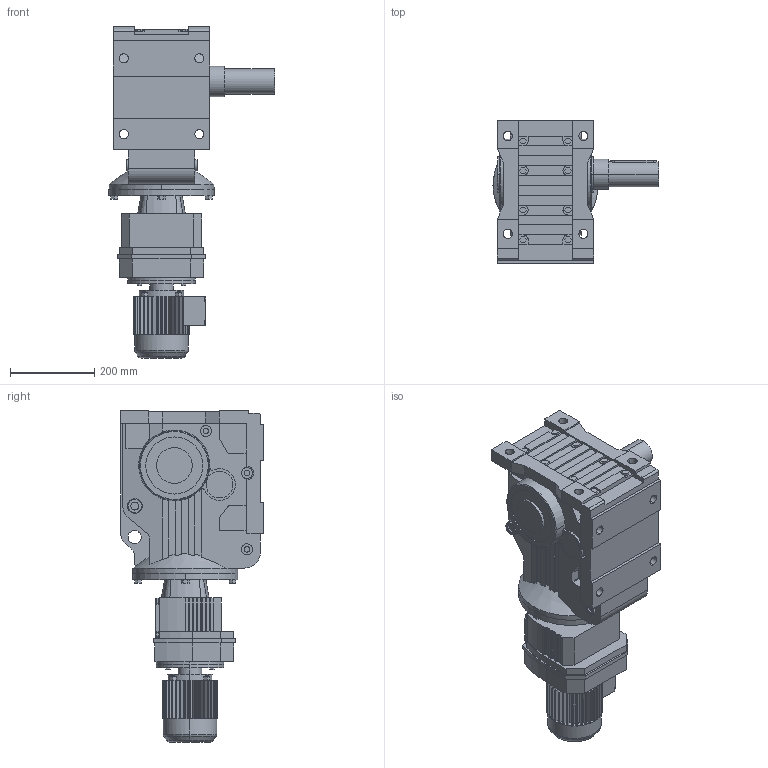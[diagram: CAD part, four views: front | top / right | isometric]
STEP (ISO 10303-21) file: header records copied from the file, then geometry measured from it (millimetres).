
FILE_DESCRIPTION(('Open CASCADE Model'),'2;1');
FILE_NAME('Open CASCADE Shape Model','2021-07-24T16:16:45',('Author'),( 'Open CASCADE'),'Open CASCADE STEP processor 6.3','Open CASCADE 6.3' ,'Unknown');
FILE_SCHEMA(('AUTOMOTIVE_DESIGN_CC2 { 1 2 10303 214 -1 1 5 4 }'));
Length unit declared in the file: millimetre
Products named in the file (5): 1_K87R57DR63-A; K37‵157_87.step; 萇儂_160-DR63-185-240-132-105.step; R_87_57.step; す瑩妗陑粣K_87.step
Assembly tree (4 placements, depth 2):
  1_K87R57DR63-A
    K37‵157_87.step
    萇儂_160-DR63-185-240-132-105.step
    R_87_57.step
    す瑩妗陑粣K_87.step
Bounding box: 395 x 340 x 790 mm (x, y, z)
Volume: 29593749.8 mm3; surface area: 1349120.1 mm2
Topology: 4 solids, 4 shells, 1081 faces, 2870 edges, 1874 vertices
Faces by surface type: plane 772, cylinder 279, cone 22, torus 8
Entity records: 74670 total; most frequent: CARTESIAN_POINT 19733, DIRECTION 9544, ORIENTED_EDGE 5736, PCURVE 5736, DEFINITIONAL_REPRESENTATION 5736, LINE 5475, VECTOR 5475, EDGE_CURVE 2868
